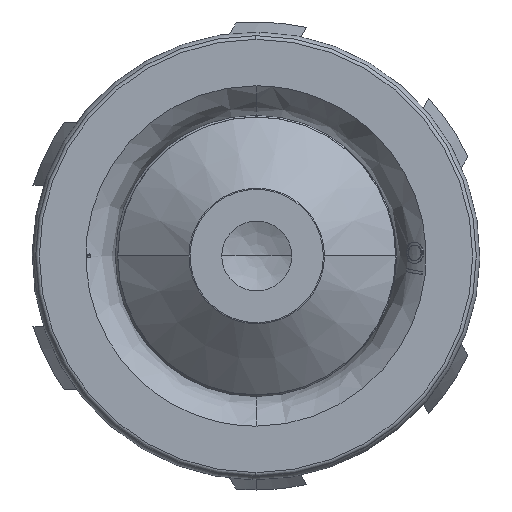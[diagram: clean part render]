
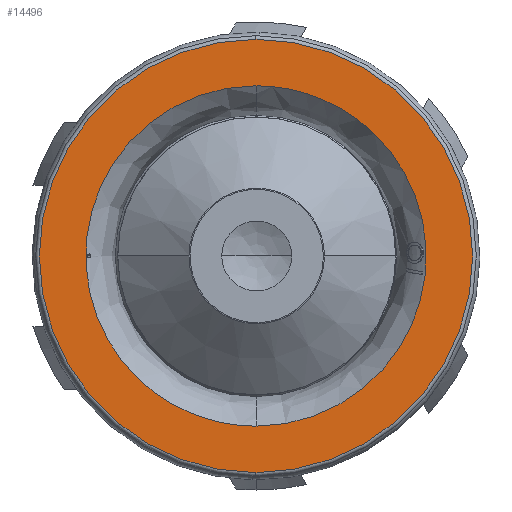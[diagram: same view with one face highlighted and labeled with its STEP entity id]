
A CAD part, left-side view. The second image highlights one B-rep face of the part: STEP entity #14496.
In plain terms, the highlighted planar face has unit normal (-1, 0, 0).
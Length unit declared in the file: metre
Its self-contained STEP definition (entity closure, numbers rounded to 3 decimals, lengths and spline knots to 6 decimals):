
#13 = CARTESIAN_POINT ( 'NONE',  ( 0., 0.0377, -0.01885 ) ) ;
#805 = CARTESIAN_POINT ( 'NONE',  ( 0., 0., 0. ) ) ;
#1491 = EDGE_LOOP ( 'NONE', ( #18698, #17314 ) ) ;
#1753 = CARTESIAN_POINT ( 'NONE',  ( 0., 0., -0.01885 ) ) ;
#1810 = VERTEX_POINT ( 'NONE', #23748 ) ;
#2200 = AXIS2_PLACEMENT_3D ( 'NONE', #4713, #2604, #20607 ) ;
#2604 = DIRECTION ( 'NONE',  ( 1., 0., 0. ) ) ;
#2779 = VERTEX_POINT ( 'NONE', #16023 ) ;
#4409 = PLANE ( 'NONE',  #18707 ) ;
#4713 = CARTESIAN_POINT ( 'NONE',  ( 0., 0., 0. ) ) ;
#5939 = CARTESIAN_POINT ( 'NONE',  ( 0., 0.0377, 0.01885 ) ) ;
#6601 = DIRECTION ( 'NONE',  ( 1., 0., 0. ) ) ;
#6663 = EDGE_LOOP ( 'NONE', ( #14322, #14804 ) ) ;
#8850 = DIRECTION ( 'NONE',  ( 0., 0., 1. ) ) ;
#9003 = EDGE_CURVE ( 'NONE', #2779, #25389, #25271, .T. ) ;
#9785 = CARTESIAN_POINT ( 'NONE',  ( 0., 0., 0.01885 ) ) ;
#10464 =( BOUNDED_CURVE ( )  B_SPLINE_CURVE ( 3, ( #15965, #5939, #13, #20153 ),
 .UNSPECIFIED., .F., .F. ) 
 B_SPLINE_CURVE_WITH_KNOTS ( ( 4, 4 ),
 ( 0., 0.058922 ),
 .UNSPECIFIED. ) 
 CURVE ( )  GEOMETRIC_REPRESENTATION_ITEM ( )  RATIONAL_B_SPLINE_CURVE ( ( 0.972, 0.324, 0.324, 0.972 ) ) 
 REPRESENTATION_ITEM ( '' )  );
#13111 = FACE_OUTER_BOUND ( 'NONE', #6663, .T. ) ;
#13166 = AXIS2_PLACEMENT_3D ( 'NONE', #805, #14954, #8850 ) ;
#14322 = ORIENTED_EDGE ( 'NONE', *, *, #26018, .F. ) ;
#14496 = ADVANCED_FACE ( 'NONE', ( #25177, #13111 ), #4409, .F. ) ;
#14564 = EDGE_CURVE ( 'NONE', #1810, #22895, #24158, .T. ) ;
#14804 = ORIENTED_EDGE ( 'NONE', *, *, #9003, .F. ) ;
#14911 = CARTESIAN_POINT ( 'NONE',  ( 0., 0., 0.01885 ) ) ;
#14954 = DIRECTION ( 'NONE',  ( 1., 0., 0. ) ) ;
#15965 = CARTESIAN_POINT ( 'NONE',  ( 0., 0., 0.01885 ) ) ;
#16023 = CARTESIAN_POINT ( 'NONE',  ( 0., 0., -0.024 ) ) ;
#16896 = CARTESIAN_POINT ( 'NONE',  ( 0., 0., 0.024 ) ) ;
#17031 = EDGE_CURVE ( 'NONE', #22895, #1810, #10464, .T. ) ;
#17241 = CARTESIAN_POINT ( 'NONE',  ( 0., -0.0377, 0.01885 ) ) ;
#17314 = ORIENTED_EDGE ( 'NONE', *, *, #17031, .F. ) ;
#18698 = ORIENTED_EDGE ( 'NONE', *, *, #14564, .F. ) ;
#18707 = AXIS2_PLACEMENT_3D ( 'NONE', #25047, #6601, #20821 ) ;
#18939 = CARTESIAN_POINT ( 'NONE',  ( 0., -0.0377, -0.01885 ) ) ;
#20153 = CARTESIAN_POINT ( 'NONE',  ( 0., 0., -0.01885 ) ) ;
#20607 = DIRECTION ( 'NONE',  ( 0., 0., 1. ) ) ;
#20821 = DIRECTION ( 'NONE',  ( 0., 0., -1. ) ) ;
#22538 = CIRCLE ( 'NONE', #2200, 0.024 ) ;
#22895 = VERTEX_POINT ( 'NONE', #9785 ) ;
#23748 = CARTESIAN_POINT ( 'NONE',  ( 0., 0., -0.01885 ) ) ;
#24158 =( BOUNDED_CURVE ( )  B_SPLINE_CURVE ( 3, ( #1753, #18939, #17241, #14911 ),
 .UNSPECIFIED., .F., .F. ) 
 B_SPLINE_CURVE_WITH_KNOTS ( ( 4, 4 ),
 ( 0., 0.058922 ),
 .UNSPECIFIED. ) 
 CURVE ( )  GEOMETRIC_REPRESENTATION_ITEM ( )  RATIONAL_B_SPLINE_CURVE ( ( 0.972, 0.324, 0.324, 0.972 ) ) 
 REPRESENTATION_ITEM ( '' )  );
#25047 = CARTESIAN_POINT ( 'NONE',  ( 0., -0.024288, 0.024288 ) ) ;
#25177 = FACE_BOUND ( 'NONE', #1491, .T. ) ;
#25271 = CIRCLE ( 'NONE', #13166, 0.024 ) ;
#25389 = VERTEX_POINT ( 'NONE', #16896 ) ;
#26018 = EDGE_CURVE ( 'NONE', #25389, #2779, #22538, .T. ) ;
